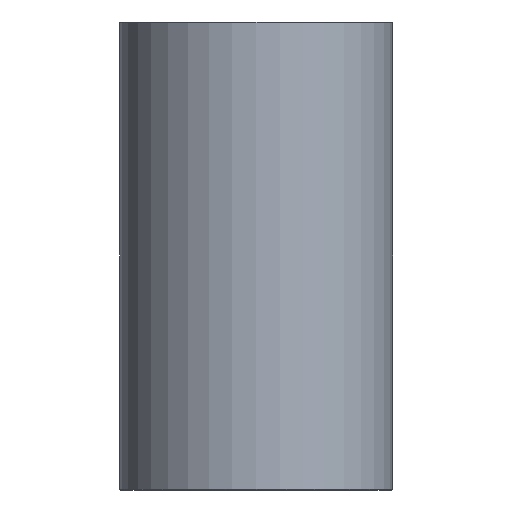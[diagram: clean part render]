
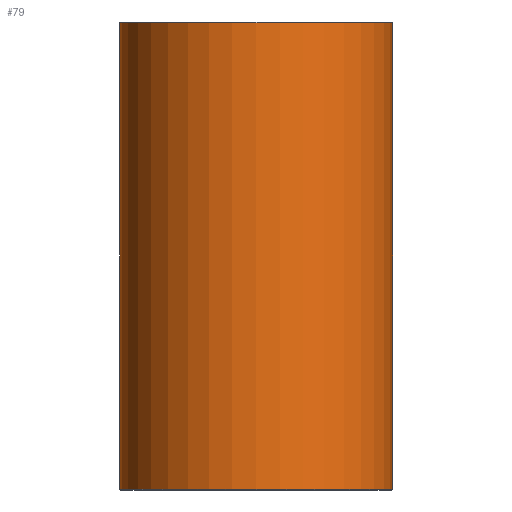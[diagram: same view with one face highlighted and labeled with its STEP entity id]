
A CAD part, front view. The second image highlights one B-rep face of the part: STEP entity #79.
In plain terms, the highlighted cylindrical face has radius 35 mm (diameter 70 mm), a full revolution.
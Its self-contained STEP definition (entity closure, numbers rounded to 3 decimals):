
#79=ADVANCED_FACE('',(#96,#97),#98,.T.);
#96=FACE_OUTER_BOUND('',#120,.T.);
#97=FACE_OUTER_BOUND('',#121,.T.);
#98=CYLINDRICAL_SURFACE('',#122,35.0);
#120=EDGE_LOOP('',(#152));
#121=EDGE_LOOP('',(#153));
#122=AXIS2_PLACEMENT_3D('',#154,#155,#156);
#152=ORIENTED_EDGE('',*,*,#178,.T.);
#153=ORIENTED_EDGE('',*,*,#177,.T.);
#154=CARTESIAN_POINT('',(0.,0.0,120.0));
#155=DIRECTION('',(0.0,0.0,-1.0));
#156=DIRECTION('',(-1.0,0.0,0.0));
#177=EDGE_CURVE('',#190,#190,#191,.T.);
#178=EDGE_CURVE('',#192,#192,#193,.F.);
#190=VERTEX_POINT('',#206);
#191=CIRCLE('',#207,35.0);
#192=VERTEX_POINT('',#208);
#193=CIRCLE('',#209,35.0);
#206=CARTESIAN_POINT('',(35.0,0.0,0.2));
#207=AXIS2_PLACEMENT_3D('',#227,#228,#229);
#208=CARTESIAN_POINT('',(35.0,0.,119.8));
#209=AXIS2_PLACEMENT_3D('',#230,#231,#232);
#227=CARTESIAN_POINT('',(0.,0.0,0.2));
#228=DIRECTION('',(0.0,0.0,1.0));
#229=DIRECTION('',(1.0,0.0,0.0));
#230=CARTESIAN_POINT('',(0.,0.0,119.8));
#231=DIRECTION('',(0.0,0.0,1.0));
#232=DIRECTION('',(1.0,0.0,0.0));
